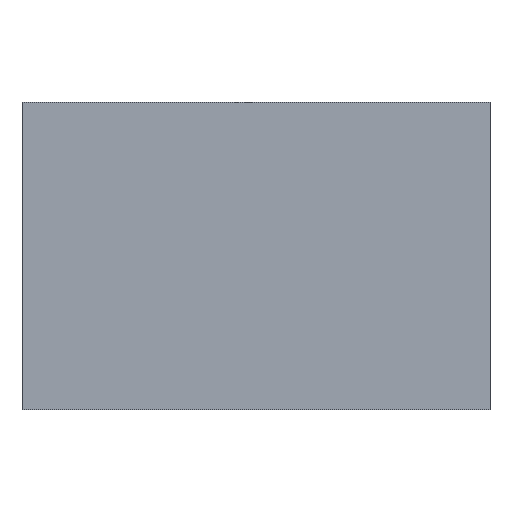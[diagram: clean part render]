
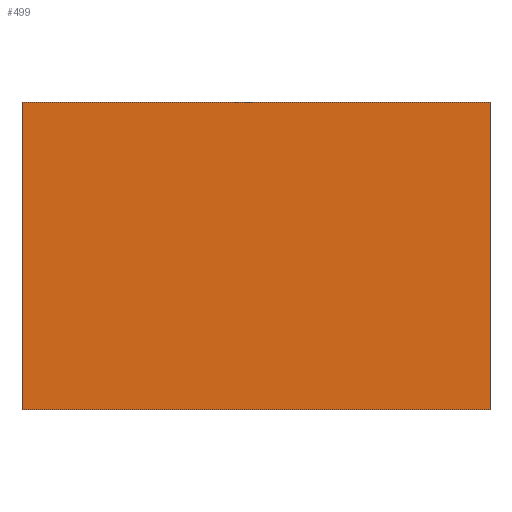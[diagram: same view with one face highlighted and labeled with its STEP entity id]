
A CAD part, front view. The second image highlights one B-rep face of the part: STEP entity #499.
In plain terms, the highlighted planar face has unit normal (0, -1, 0).
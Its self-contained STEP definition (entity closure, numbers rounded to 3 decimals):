
#39=PLANE('',#585);
#78=FACE_OUTER_BOUND('',#115,.T.);
#115=EDGE_LOOP('',(#451,#452,#453,#454));
#135=LINE('',#800,#163);
#146=LINE('',#879,#174);
#149=LINE('',#885,#177);
#150=LINE('',#886,#178);
#163=VECTOR('',#642,10.);
#174=VECTOR('',#735,10.);
#177=VECTOR('',#740,10.);
#178=VECTOR('',#741,10.);
#237=VERTEX_POINT('',#794);
#239=VERTEX_POINT('',#798);
#266=VERTEX_POINT('',#878);
#268=VERTEX_POINT('',#884);
#293=EDGE_CURVE('',#237,#239,#135,.T.);
#330=EDGE_CURVE('',#266,#237,#146,.T.);
#333=EDGE_CURVE('',#268,#239,#149,.T.);
#334=EDGE_CURVE('',#266,#268,#150,.T.);
#451=ORIENTED_EDGE('',*,*,#293,.T.);
#452=ORIENTED_EDGE('',*,*,#333,.F.);
#453=ORIENTED_EDGE('',*,*,#334,.F.);
#454=ORIENTED_EDGE('',*,*,#330,.T.);
#499=ADVANCED_FACE('',(#78),#39,.T.);
#585=AXIS2_PLACEMENT_3D('',#883,#738,#739);
#642=DIRECTION('',(-1.,0.,0.));
#735=DIRECTION('',(0.,0.,1.));
#738=DIRECTION('center_axis',(0.,-1.,0.));
#739=DIRECTION('ref_axis',(0.,0.,-1.));
#740=DIRECTION('',(0.,0.,1.));
#741=DIRECTION('',(-1.,0.,0.));
#794=CARTESIAN_POINT('',(51.643,-21.064,50.));
#798=CARTESIAN_POINT('',(-24.557,-21.064,50.));
#800=CARTESIAN_POINT('',(51.643,-21.064,50.));
#878=CARTESIAN_POINT('',(51.643,-21.064,0.));
#879=CARTESIAN_POINT('',(51.643,-21.064,0.));
#883=CARTESIAN_POINT('Origin',(51.643,-21.064,0.));
#884=CARTESIAN_POINT('',(-24.557,-21.064,0.));
#885=CARTESIAN_POINT('',(-24.557,-21.064,0.));
#886=CARTESIAN_POINT('',(51.643,-21.064,0.));
